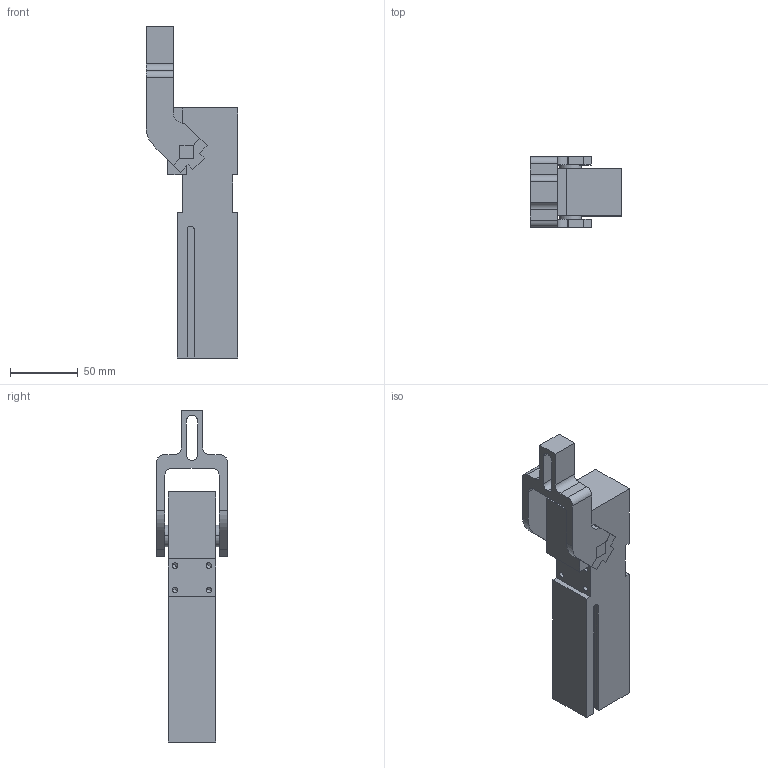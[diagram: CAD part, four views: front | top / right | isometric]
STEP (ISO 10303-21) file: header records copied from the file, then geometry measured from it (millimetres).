
FILE_DESCRIPTION(('CATIA V5 STEP Exchange'),'2;1');
FILE_NAME('G:\Konstruktion\Modelle\Step\K2_25_1_A17_TUENKERS.stp','2008-12-29T12:59:09+00:00',('none'),('none'),'CATIA Version 5 Release 17 (IN-10)','CATIA V5 STEP AP203','none');
FILE_SCHEMA(('CONFIG_CONTROL_DESIGN'));
Length unit declared in the file: millimetre
Products named in the file (1): K2_25_1_A17_TUENKERS
Bounding box: 68 x 52 x 245.6 mm (x, y, z)
Volume: 324250.5 mm3; surface area: 60261.3 mm2
Topology: 6 solids, 6 shells, 178 faces, 458 edges, 290 vertices
Faces by surface type: plane 110, cylinder 52, cone 16
Entity records: 4920 total; most frequent: ORIENTED_EDGE 884, CARTESIAN_POINT 857, DIRECTION 690, EDGE_CURVE 442, VECTOR 338, LINE 338, VERTEX_POINT 290, AXIS2_PLACEMENT_3D 229
